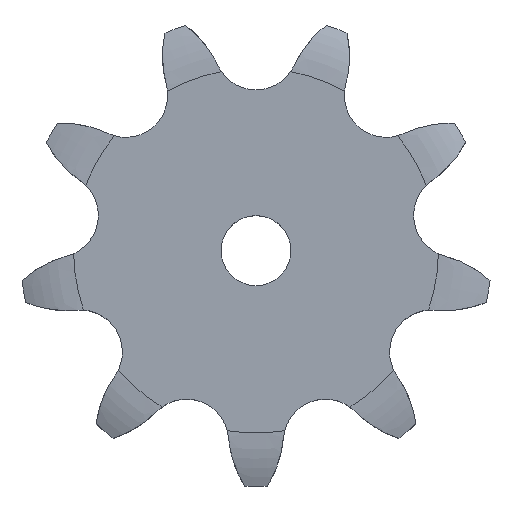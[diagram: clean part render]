
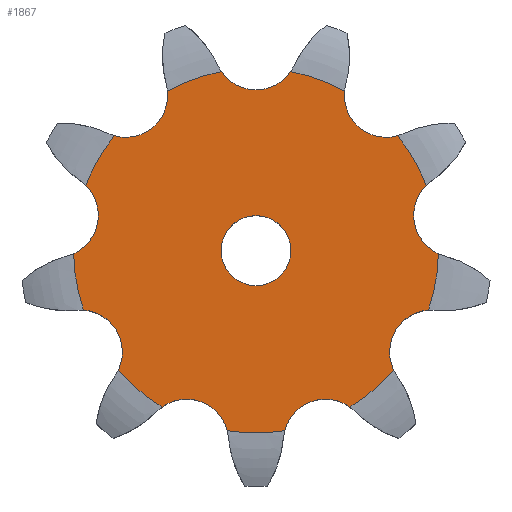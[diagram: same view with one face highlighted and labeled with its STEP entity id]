
A CAD part, top view. The second image highlights one B-rep face of the part: STEP entity #1867.
In plain terms, the highlighted planar face has unit normal (0, 0, 1).
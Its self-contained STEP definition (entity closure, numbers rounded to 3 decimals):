
#33=CARTESIAN_POINT('',(0.,0.,9.25));
#34=DIRECTION('',(0.,0.,-1.));
#35=DIRECTION('',(0.19,0.982,0.));
#36=AXIS2_PLACEMENT_3D('',#33,#34,#35);
#42=CARTESIAN_POINT('',(29.835,35.556,9.25));
#43=DIRECTION('',(0.,0.,1.));
#44=DIRECTION('',(-0.995,0.098,0.));
#45=AXIS2_PLACEMENT_3D('',#42,#43,#44);
#50=CARTESIAN_POINT('',(0.,0.,9.25));
#51=DIRECTION('',(0.,0.,-1.));
#52=DIRECTION('',(0.777,0.63,0.));
#53=AXIS2_PLACEMENT_3D('',#50,#51,#52);
#58=CARTESIAN_POINT('',(45.71,8.06,9.25));
#59=DIRECTION('',(0.,0.,1.));
#60=DIRECTION('',(-0.699,0.715,0.));
#61=AXIS2_PLACEMENT_3D('',#58,#59,#60);
#66=CARTESIAN_POINT('',(0.,0.,9.25));
#67=DIRECTION('',(0.,0.,-1.));
#68=DIRECTION('',(1.,-0.017,0.));
#69=AXIS2_PLACEMENT_3D('',#66,#67,#68);
#74=CARTESIAN_POINT('',(40.197,-23.208,9.25));
#75=DIRECTION('',(0.,0.,1.));
#76=DIRECTION('',(-0.076,0.997,0.));
#77=AXIS2_PLACEMENT_3D('',#74,#75,#76);
#82=CARTESIAN_POINT('',(0.,0.,9.25));
#83=DIRECTION('',(0.,0.,-1.));
#84=DIRECTION('',(0.755,-0.656,0.));
#85=AXIS2_PLACEMENT_3D('',#82,#83,#84);
#90=CARTESIAN_POINT('',(15.875,-43.616,9.25));
#91=DIRECTION('',(0.,0.,1.));
#92=DIRECTION('',(0.583,0.813,0.));
#93=AXIS2_PLACEMENT_3D('',#90,#91,#92);
#98=CARTESIAN_POINT('',(-15.875,-43.616,9.25));
#99=DIRECTION('',(0.,0.,1.));
#100=DIRECTION('',(0.969,0.248,0.));
#101=AXIS2_PLACEMENT_3D('',#98,#99,#100);
#106=CARTESIAN_POINT('',(0.,0.,9.25));
#107=DIRECTION('',(0.,0.,-1.));
#108=DIRECTION('',(-0.515,-0.857,0.));
#109=AXIS2_PLACEMENT_3D('',#106,#107,#108);
#114=CARTESIAN_POINT('',(-40.197,-23.208,9.25));
#115=DIRECTION('',(0.,0.,1.));
#116=DIRECTION('',(0.902,-0.433,0.));
#117=AXIS2_PLACEMENT_3D('',#114,#115,#116);
#122=CARTESIAN_POINT('',(0.,0.,9.25));
#123=DIRECTION('',(0.,0.,-1.));
#124=DIRECTION('',(-0.945,-0.326,0.));
#125=AXIS2_PLACEMENT_3D('',#122,#123,#124);
#130=CARTESIAN_POINT('',(-45.71,8.06,9.25));
#131=DIRECTION('',(0.,0.,1.));
#132=DIRECTION('',(0.412,-0.911,0.));
#133=AXIS2_PLACEMENT_3D('',#130,#131,#132);
#138=CARTESIAN_POINT('',(0.,0.,9.25));
#139=DIRECTION('',(0.,0.,-1.));
#140=DIRECTION('',(-0.934,0.358,0.));
#141=AXIS2_PLACEMENT_3D('',#138,#139,#140);
#146=CARTESIAN_POINT('',(-29.835,35.556,9.25));
#147=DIRECTION('',(0.,0.,1.));
#148=DIRECTION('',(-0.27,-0.963,0.));
#149=AXIS2_PLACEMENT_3D('',#146,#147,#148);
#154=CARTESIAN_POINT('',(0.,0.,9.25));
#155=DIRECTION('',(0.,0.,-1.));
#156=DIRECTION('',(-0.485,0.874,0.));
#157=AXIS2_PLACEMENT_3D('',#154,#155,#156);
#162=CARTESIAN_POINT('',(0.,46.415,9.25));
#163=DIRECTION('',(0.,0.,1.));
#164=DIRECTION('',(-0.826,-0.564,0.));
#165=AXIS2_PLACEMENT_3D('',#162,#163,#164);
#170=CARTESIAN_POINT('',(0.,0.,9.25));
#171=DIRECTION('',(0.,0.,1.));
#172=DIRECTION('',(1.,0.,0.));
#173=AXIS2_PLACEMENT_3D('',#170,#171,#172);
#178=CARTESIAN_POINT('',(0.,0.,9.25));
#179=DIRECTION('',(0.,0.,1.));
#180=DIRECTION('',(-1.,0.,0.));
#181=AXIS2_PLACEMENT_3D('',#178,#179,#180);
#234=CARTESIAN_POINT('',(0.,0.,9.25));
#235=DIRECTION('',(0.,0.,1.));
#236=DIRECTION('',(-0.157,-0.988,0.));
#237=AXIS2_PLACEMENT_3D('',#234,#235,#236);
#1247=CARTESIAN_POINT('',(-6.555,-41.23,9.25));
#1628=CARTESIAN_POINT('',(7.942,40.986,9.25));
#1629=CARTESIAN_POINT('',(20.262,36.502,9.25));
#1630=VERTEX_POINT('',#1628);
#1631=VERTEX_POINT('',#1629);
#1632=CARTESIAN_POINT('',(32.429,26.292,9.25));
#1633=CARTESIAN_POINT('',(38.984,14.938,9.25));
#1634=VERTEX_POINT('',#1632);
#1635=VERTEX_POINT('',#1633);
#1636=CARTESIAN_POINT('',(41.742,-0.704,9.25));
#1637=CARTESIAN_POINT('',(39.466,-13.615,9.25));
#1638=VERTEX_POINT('',#1636);
#1639=VERTEX_POINT('',#1637);
#1640=CARTESIAN_POINT('',(31.524,-27.371,9.25));
#1641=CARTESIAN_POINT('',(21.481,-35.798,9.25));
#1642=VERTEX_POINT('',#1640);
#1643=VERTEX_POINT('',#1641);
#1644=CARTESIAN_POINT('',(-21.481,-35.798,9.25));
#1645=CARTESIAN_POINT('',(-31.524,-27.371,9.25));
#1646=VERTEX_POINT('',#1644);
#1647=VERTEX_POINT('',#1645);
#1648=CARTESIAN_POINT('',(-39.466,-13.615,9.25));
#1649=CARTESIAN_POINT('',(-41.742,-0.704,9.25));
#1650=VERTEX_POINT('',#1648);
#1651=VERTEX_POINT('',#1649);
#1652=CARTESIAN_POINT('',(-38.984,14.938,9.25));
#1653=CARTESIAN_POINT('',(-32.429,26.292,9.25));
#1654=VERTEX_POINT('',#1652);
#1655=VERTEX_POINT('',#1653);
#1699=VERTEX_POINT('',#1247);
#1714=CARTESIAN_POINT('',(6.555,-41.23,9.25));
#1715=VERTEX_POINT('',#1714);
#1718=CARTESIAN_POINT('',(-20.262,36.502,9.25));
#1719=VERTEX_POINT('',#1718);
#1730=CARTESIAN_POINT('',(-7.942,40.986,9.25));
#1731=VERTEX_POINT('',#1730);
#1734=CARTESIAN_POINT('',(8.,0.,9.25));
#1735=CARTESIAN_POINT('',(-8.,0.,9.25));
#1736=VERTEX_POINT('',#1734);
#1737=VERTEX_POINT('',#1735);
#1818=CARTESIAN_POINT('',(0.,0.,9.25));
#1819=DIRECTION('',(0.,0.,1.));
#1820=DIRECTION('',(1.,0.,0.));
#1821=AXIS2_PLACEMENT_3D('',#1818,#1819,#1820);
#1822=PLANE('',#1821);
#1824=ORIENTED_EDGE('',*,*,#1823,.T.);
#1826=ORIENTED_EDGE('',*,*,#1825,.T.);
#1828=ORIENTED_EDGE('',*,*,#1827,.T.);
#1830=ORIENTED_EDGE('',*,*,#1829,.T.);
#1832=ORIENTED_EDGE('',*,*,#1831,.T.);
#1834=ORIENTED_EDGE('',*,*,#1833,.T.);
#1836=ORIENTED_EDGE('',*,*,#1835,.T.);
#1838=ORIENTED_EDGE('',*,*,#1837,.T.);
#1840=ORIENTED_EDGE('',*,*,#1839,.F.);
#1842=ORIENTED_EDGE('',*,*,#1841,.T.);
#1844=ORIENTED_EDGE('',*,*,#1843,.T.);
#1846=ORIENTED_EDGE('',*,*,#1845,.T.);
#1848=ORIENTED_EDGE('',*,*,#1847,.T.);
#1850=ORIENTED_EDGE('',*,*,#1849,.T.);
#1852=ORIENTED_EDGE('',*,*,#1851,.T.);
#1854=ORIENTED_EDGE('',*,*,#1853,.T.);
#1856=ORIENTED_EDGE('',*,*,#1855,.T.);
#1858=ORIENTED_EDGE('',*,*,#1857,.T.);
#1859=EDGE_LOOP('',(#1824,#1826,#1828,#1830,#1832,#1834,#1836,#1838,#1840,#1842,
#1844,#1846,#1848,#1850,#1852,#1854,#1856,#1858));
#1860=FACE_OUTER_BOUND('',#1859,.F.);
#1862=ORIENTED_EDGE('',*,*,#1861,.T.);
#1864=ORIENTED_EDGE('',*,*,#1863,.T.);
#1865=EDGE_LOOP('',(#1862,#1864));
#1866=FACE_BOUND('',#1865,.F.);
#1867=ADVANCED_FACE('',(#1860,#1866),#1822,.T.);
#37=CIRCLE('',#36,41.748);
#46=CIRCLE('',#45,9.62);
#54=CIRCLE('',#53,41.748);
#62=CIRCLE('',#61,9.62);
#70=CIRCLE('',#69,41.748);
#78=CIRCLE('',#77,9.62);
#86=CIRCLE('',#85,41.748);
#94=CIRCLE('',#93,9.62);
#102=CIRCLE('',#101,9.62);
#110=CIRCLE('',#109,41.748);
#118=CIRCLE('',#117,9.62);
#126=CIRCLE('',#125,41.748);
#134=CIRCLE('',#133,9.62);
#142=CIRCLE('',#141,41.748);
#150=CIRCLE('',#149,9.62);
#158=CIRCLE('',#157,41.748);
#166=CIRCLE('',#165,9.62);
#174=CIRCLE('',#173,8.);
#182=CIRCLE('',#181,8.);
#238=CIRCLE('',#237,41.748);
#1823=EDGE_CURVE('',#1630,#1631,#37,.T.);
#1825=EDGE_CURVE('',#1631,#1634,#46,.T.);
#1827=EDGE_CURVE('',#1634,#1635,#54,.T.);
#1829=EDGE_CURVE('',#1635,#1638,#62,.T.);
#1831=EDGE_CURVE('',#1638,#1639,#70,.T.);
#1833=EDGE_CURVE('',#1639,#1642,#78,.T.);
#1835=EDGE_CURVE('',#1642,#1643,#86,.T.);
#1837=EDGE_CURVE('',#1643,#1715,#94,.T.);
#1839=EDGE_CURVE('',#1699,#1715,#238,.T.);
#1841=EDGE_CURVE('',#1699,#1646,#102,.T.);
#1843=EDGE_CURVE('',#1646,#1647,#110,.T.);
#1845=EDGE_CURVE('',#1647,#1650,#118,.T.);
#1847=EDGE_CURVE('',#1650,#1651,#126,.T.);
#1849=EDGE_CURVE('',#1651,#1654,#134,.T.);
#1851=EDGE_CURVE('',#1654,#1655,#142,.T.);
#1853=EDGE_CURVE('',#1655,#1719,#150,.T.);
#1855=EDGE_CURVE('',#1719,#1731,#158,.T.);
#1857=EDGE_CURVE('',#1731,#1630,#166,.T.);
#1861=EDGE_CURVE('',#1736,#1737,#174,.T.);
#1863=EDGE_CURVE('',#1737,#1736,#182,.T.);
